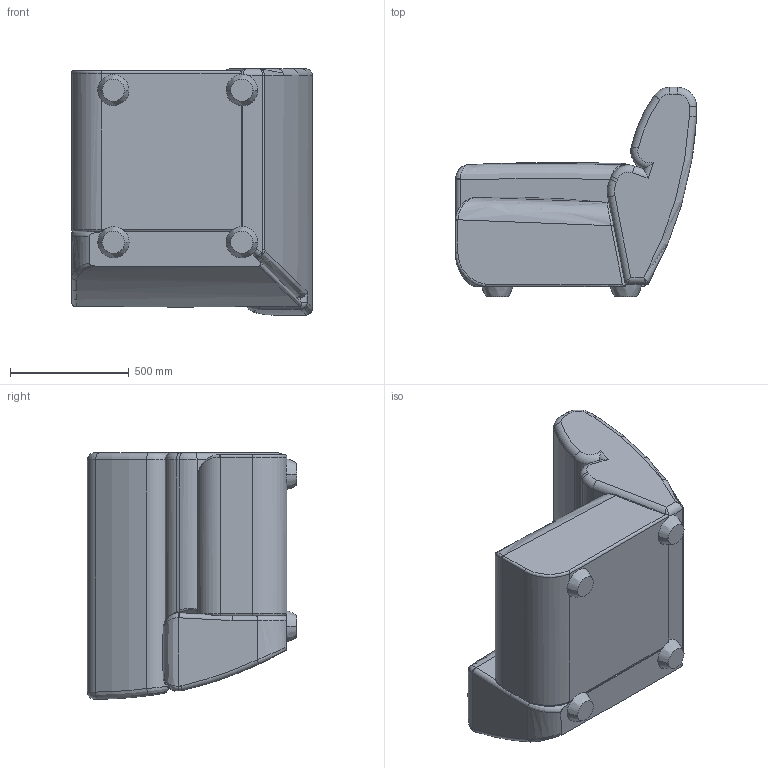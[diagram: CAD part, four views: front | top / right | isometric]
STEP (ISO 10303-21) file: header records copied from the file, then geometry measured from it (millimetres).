
FILE_DESCRIPTION(/* description */ (''),/* implementation_level */ '2;1');
FILE_NAME(/* name */ '1SG-0003 Snug Plus with Right Arm (Simplify).stp',/* time_stamp */ '2025-08-08T11:39:27+01:00',/* author */ ('Mark.Glazzard'),/* organization */ (''),/* preprocessor_version */ 'ST-DEVELOPER v20',/* originating_system */ 'Autodesk Inventor 2025',/* authorisation */ '');
FILE_SCHEMA (('AUTOMOTIVE_DESIGN { 1 0 10303 214 3 1 1 }'));
Length unit declared in the file: millimetre
Products named in the file (1): 1SG-0003 Snug Plus with Right Arm (Simplify)
Bounding box: 1013.67 x 879.97 x 1036.74 mm (x, y, z)
Volume: 444316994.2 mm3; surface area: 4417838 mm2
Topology: 1 solids, 1 shells, 133 faces, 357 edges, 210 vertices
Faces by surface type: bspline 47, plane 37, cylinder 36, torus 12, sphere 1
Entity records: 13490 total; most frequent: CARTESIAN_POINT 10394, ORIENTED_EDGE 702, DIRECTION 492, EDGE_CURVE 351, VERTEX_POINT 210, AXIS2_PLACEMENT_3D 186, STYLED_ITEM 134, FACE_OUTER_BOUND 133
